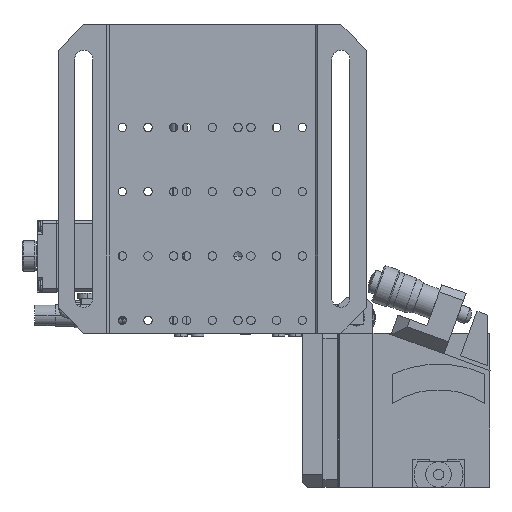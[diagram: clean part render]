
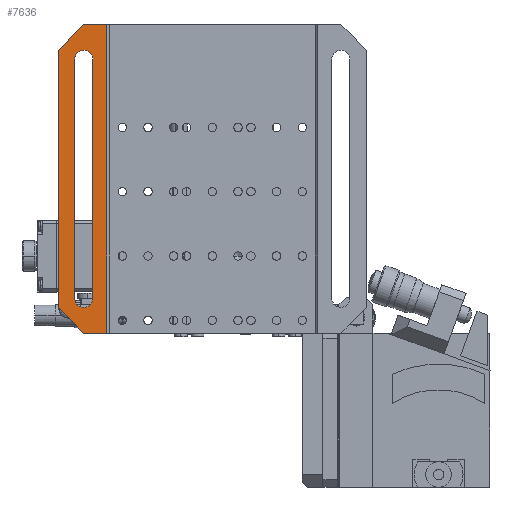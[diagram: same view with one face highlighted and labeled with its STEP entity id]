
A CAD part, front view. The second image highlights one B-rep face of the part: STEP entity #7636.
In plain terms, the highlighted planar face has unit normal (0, -1, 0).
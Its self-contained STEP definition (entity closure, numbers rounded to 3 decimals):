
#365 = VERTEX_POINT ( 'NONE', #54571 ) ;
#661 = VECTOR ( 'NONE', #64952, 1000. ) ;
#2448 = LINE ( 'NONE', #19581, #661 ) ;
#2449 = DIRECTION ( 'NONE',  ( 0., 1., 0. ) ) ;
#2710 = VECTOR ( 'NONE', #20522, 1000. ) ;
#3135 = EDGE_LOOP ( 'NONE', ( #68954, #16631, #40441, #73048, #15601, #56442 ) ) ;
#3207 = LINE ( 'NONE', #47629, #16578 ) ;
#4056 = VERTEX_POINT ( 'NONE', #62496 ) ;
#4138 = LINE ( 'NONE', #46151, #42320 ) ;
#4305 = EDGE_CURVE ( 'NONE', #51498, #60865, #2448, .T. ) ;
#4403 = DIRECTION ( 'NONE',  ( 0., 0., -1. ) ) ;
#4653 = CARTESIAN_POINT ( 'NONE',  ( -46.5, 0., 106.5 ) ) ;
#7377 = CARTESIAN_POINT ( 'NONE',  ( -60., 0., 110. ) ) ;
#7636 = ADVANCED_FACE ( 'NONE', ( #51990, #67082 ), #52196, .T. ) ;
#8741 = EDGE_CURVE ( 'NONE', #49185, #51213, #16373, .T. ) ;
#9978 = EDGE_CURVE ( 'NONE', #4056, #34022, #49875, .T. ) ;
#14125 = CARTESIAN_POINT ( 'NONE',  ( -41., 0., 0. ) ) ;
#15601 = ORIENTED_EDGE ( 'NONE', *, *, #16914, .F. ) ;
#16373 = LINE ( 'NONE', #35314, #27891 ) ;
#16578 = VECTOR ( 'NONE', #19361, 1000. ) ;
#16631 = ORIENTED_EDGE ( 'NONE', *, *, #9978, .T. ) ;
#16914 = EDGE_CURVE ( 'NONE', #60865, #365, #4138, .T. ) ;
#17034 = EDGE_CURVE ( 'NONE', #27373, #365, #3207, .T. ) ;
#17468 = CIRCLE ( 'NONE', #43199, 3.5 ) ;
#18911 = ORIENTED_EDGE ( 'NONE', *, *, #73285, .T. ) ;
#18912 = CIRCLE ( 'NONE', #56266, 3.5 ) ;
#19129 = VECTOR ( 'NONE', #31447, 1000. ) ;
#19235 = EDGE_CURVE ( 'NONE', #27373, #34022, #45544, .T. ) ;
#19361 = DIRECTION ( 'NONE',  ( 0.707, 0., -0.707 ) ) ;
#19581 = CARTESIAN_POINT ( 'NONE',  ( -41., 0., 60. ) ) ;
#20312 = EDGE_CURVE ( 'NONE', #42479, #72086, #51537, .T. ) ;
#20522 = DIRECTION ( 'NONE',  ( 0., 0., 1. ) ) ;
#20911 = LINE ( 'NONE', #70875, #19129 ) ;
#21210 = AXIS2_PLACEMENT_3D ( 'NONE', #57927, #63614, #29647 ) ;
#21267 = ORIENTED_EDGE ( 'NONE', *, *, #64301, .T. ) ;
#22039 = AXIS2_PLACEMENT_3D ( 'NONE', #72396, #38425, #4403 ) ;
#23195 = DIRECTION ( 'NONE',  ( 0., 0., -1. ) ) ;
#26846 = EDGE_CURVE ( 'NONE', #41931, #42479, #60896, .T. ) ;
#27373 = VERTEX_POINT ( 'NONE', #54956 ) ;
#27891 = VECTOR ( 'NONE', #52171, 1000. ) ;
#29275 = DIRECTION ( 'NONE',  ( -1., 0., 0. ) ) ;
#29647 = DIRECTION ( 'NONE',  ( 0., 0., 1. ) ) ;
#30663 = EDGE_LOOP ( 'NONE', ( #51518, #18911, #44406, #21267, #43798 ) ) ;
#31381 = CARTESIAN_POINT ( 'NONE',  ( -46.5, 0., 13.5 ) ) ;
#31447 = DIRECTION ( 'NONE',  ( 1., 0., 0. ) ) ;
#32987 = VECTOR ( 'NONE', #65531, 1000. ) ;
#34022 = VERTEX_POINT ( 'NONE', #7377 ) ;
#34283 = CARTESIAN_POINT ( 'NONE',  ( -41., 0., 120. ) ) ;
#34550 = CARTESIAN_POINT ( 'NONE',  ( -53.5, 0., 106.5 ) ) ;
#35314 = CARTESIAN_POINT ( 'NONE',  ( -46.5, 0., 60. ) ) ;
#35797 = CARTESIAN_POINT ( 'NONE',  ( -60., 0., 60. ) ) ;
#36454 = CARTESIAN_POINT ( 'NONE',  ( -50., 0., 13.5 ) ) ;
#38425 = DIRECTION ( 'NONE',  ( 0., 1., 0. ) ) ;
#40441 = ORIENTED_EDGE ( 'NONE', *, *, #19235, .F. ) ;
#41931 = VERTEX_POINT ( 'NONE', #71723 ) ;
#41972 = VECTOR ( 'NONE', #47232, 1000. ) ;
#42184 = DIRECTION ( 'NONE',  ( 0., 0., -1. ) ) ;
#42320 = VECTOR ( 'NONE', #29275, 1000. ) ;
#42479 = VERTEX_POINT ( 'NONE', #43620 ) ;
#42713 = CARTESIAN_POINT ( 'NONE',  ( -55., 0., 115. ) ) ;
#43199 = AXIS2_PLACEMENT_3D ( 'NONE', #64892, #57179, #23195 ) ;
#43620 = CARTESIAN_POINT ( 'NONE',  ( -53.5, 0., 13.5 ) ) ;
#43798 = ORIENTED_EDGE ( 'NONE', *, *, #26846, .T. ) ;
#44406 = ORIENTED_EDGE ( 'NONE', *, *, #8741, .T. ) ;
#45544 = LINE ( 'NONE', #35797, #41972 ) ;
#46151 = CARTESIAN_POINT ( 'NONE',  ( 0., 0., 0. ) ) ;
#47232 = DIRECTION ( 'NONE',  ( 0., 0., 1. ) ) ;
#47493 = EDGE_CURVE ( 'NONE', #4056, #51498, #20911, .T. ) ;
#47629 = CARTESIAN_POINT ( 'NONE',  ( -55., 0., 5. ) ) ;
#49185 = VERTEX_POINT ( 'NONE', #4653 ) ;
#49875 = LINE ( 'NONE', #42713, #32987 ) ;
#51213 = VERTEX_POINT ( 'NONE', #31381 ) ;
#51498 = VERTEX_POINT ( 'NONE', #34283 ) ;
#51518 = ORIENTED_EDGE ( 'NONE', *, *, #20312, .T. ) ;
#51537 = LINE ( 'NONE', #59952, #2710 ) ;
#51990 = FACE_BOUND ( 'NONE', #30663, .T. ) ;
#52171 = DIRECTION ( 'NONE',  ( 0., 0., -1. ) ) ;
#52196 = PLANE ( 'NONE',  #21210 ) ;
#54571 = CARTESIAN_POINT ( 'NONE',  ( -50., 0., 0. ) ) ;
#54956 = CARTESIAN_POINT ( 'NONE',  ( -60., 0., 10. ) ) ;
#56266 = AXIS2_PLACEMENT_3D ( 'NONE', #36454, #2449, #42184 ) ;
#56442 = ORIENTED_EDGE ( 'NONE', *, *, #4305, .F. ) ;
#57179 = DIRECTION ( 'NONE',  ( 0., 1., 0. ) ) ;
#57927 = CARTESIAN_POINT ( 'NONE',  ( -41., 0., 0. ) ) ;
#59952 = CARTESIAN_POINT ( 'NONE',  ( -53.5, 0., 60. ) ) ;
#60865 = VERTEX_POINT ( 'NONE', #14125 ) ;
#60896 = CIRCLE ( 'NONE', #22039, 3.5 ) ;
#62496 = CARTESIAN_POINT ( 'NONE',  ( -50., 0., 120. ) ) ;
#63614 = DIRECTION ( 'NONE',  ( 0., -1., 0. ) ) ;
#64301 = EDGE_CURVE ( 'NONE', #51213, #41931, #18912, .T. ) ;
#64892 = CARTESIAN_POINT ( 'NONE',  ( -50., 0., 106.5 ) ) ;
#64952 = DIRECTION ( 'NONE',  ( 0., 0., -1. ) ) ;
#65531 = DIRECTION ( 'NONE',  ( -0.707, 0., -0.707 ) ) ;
#67082 = FACE_OUTER_BOUND ( 'NONE', #3135, .T. ) ;
#68954 = ORIENTED_EDGE ( 'NONE', *, *, #47493, .F. ) ;
#70875 = CARTESIAN_POINT ( 'NONE',  ( 0., 0., 120. ) ) ;
#71723 = CARTESIAN_POINT ( 'NONE',  ( -50., 0., 10. ) ) ;
#72086 = VERTEX_POINT ( 'NONE', #34550 ) ;
#72396 = CARTESIAN_POINT ( 'NONE',  ( -50., 0., 13.5 ) ) ;
#73048 = ORIENTED_EDGE ( 'NONE', *, *, #17034, .T. ) ;
#73285 = EDGE_CURVE ( 'NONE', #72086, #49185, #17468, .T. ) ;
